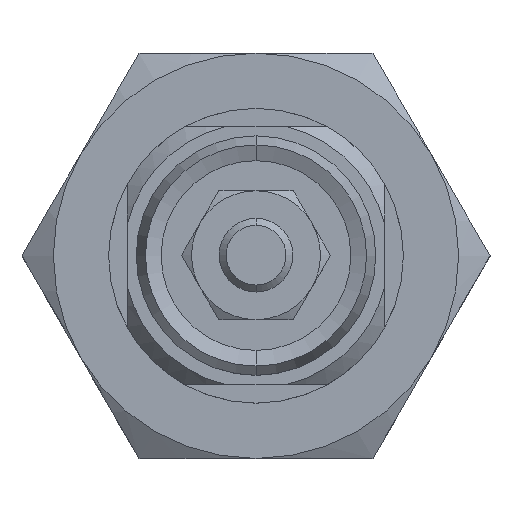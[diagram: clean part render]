
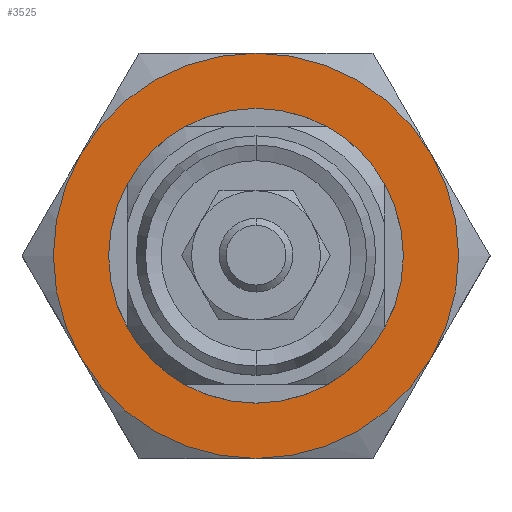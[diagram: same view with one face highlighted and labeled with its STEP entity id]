
A CAD part, top view. The second image highlights one B-rep face of the part: STEP entity #3525.
In plain terms, the highlighted planar face has unit normal (0, 0, 1).
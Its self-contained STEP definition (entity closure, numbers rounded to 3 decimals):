
#2672=CARTESIAN_POINT('',(0.,0.,6.));
#2673=DIRECTION('',(0.,0.,-1.));
#2674=DIRECTION('',(0.,1.,0.));
#2675=AXIS2_PLACEMENT_3D('',#2672,#2673,#2674);
#2680=CARTESIAN_POINT('',(0.,0.,6.));
#2681=DIRECTION('',(0.,0.,-1.));
#2682=DIRECTION('',(0.,-1.,0.));
#2683=AXIS2_PLACEMENT_3D('',#2680,#2681,#2682);
#2688=CARTESIAN_POINT('',(0.,0.,6.));
#2689=DIRECTION('',(0.,0.,-1.));
#2690=DIRECTION('',(0.,1.,0.));
#2691=AXIS2_PLACEMENT_3D('',#2688,#2689,#2690);
#2696=CARTESIAN_POINT('',(0.,0.,6.));
#2697=DIRECTION('',(0.,0.,-1.));
#2698=DIRECTION('',(0.866,0.5,0.));
#2699=AXIS2_PLACEMENT_3D('',#2696,#2697,#2698);
#2704=CARTESIAN_POINT('',(0.,0.,6.));
#2705=DIRECTION('',(0.,0.,-1.));
#2706=DIRECTION('',(0.866,-0.5,0.));
#2707=AXIS2_PLACEMENT_3D('',#2704,#2705,#2706);
#2712=CARTESIAN_POINT('',(0.,0.,6.));
#2713=DIRECTION('',(0.,0.,-1.));
#2714=DIRECTION('',(0.,-1.,0.));
#2715=AXIS2_PLACEMENT_3D('',#2712,#2713,#2714);
#2720=CARTESIAN_POINT('',(0.,0.,6.));
#2721=DIRECTION('',(0.,0.,-1.));
#2722=DIRECTION('',(-0.866,-0.5,0.));
#2723=AXIS2_PLACEMENT_3D('',#2720,#2721,#2722);
#2728=CARTESIAN_POINT('',(0.,0.,6.));
#2729=DIRECTION('',(0.,0.,-1.));
#2730=DIRECTION('',(-0.866,0.5,0.));
#2731=AXIS2_PLACEMENT_3D('',#2728,#2729,#2730);
#3376=CARTESIAN_POINT('',(0.,8.,6.));
#3377=CARTESIAN_POINT('',(0.,-8.,6.));
#3378=VERTEX_POINT('',#3376);
#3379=VERTEX_POINT('',#3377);
#3380=CARTESIAN_POINT('',(0.,11.,6.));
#3381=CARTESIAN_POINT('',(9.526,5.5,6.));
#3382=VERTEX_POINT('',#3380);
#3383=VERTEX_POINT('',#3381);
#3384=CARTESIAN_POINT('',(9.526,-5.5,6.));
#3385=VERTEX_POINT('',#3384);
#3386=CARTESIAN_POINT('',(0.,-11.,6.));
#3387=VERTEX_POINT('',#3386);
#3388=CARTESIAN_POINT('',(-9.526,-5.5,6.));
#3389=VERTEX_POINT('',#3388);
#3390=CARTESIAN_POINT('',(-9.526,5.5,6.));
#3391=VERTEX_POINT('',#3390);
#3501=CARTESIAN_POINT('',(0.,0.,6.));
#3502=DIRECTION('',(0.,0.,1.));
#3503=DIRECTION('',(1.,0.,0.));
#3504=AXIS2_PLACEMENT_3D('',#3501,#3502,#3503);
#3505=PLANE('',#3504);
#3507=ORIENTED_EDGE('',*,*,#3506,.T.);
#3509=ORIENTED_EDGE('',*,*,#3508,.T.);
#3511=ORIENTED_EDGE('',*,*,#3510,.T.);
#3513=ORIENTED_EDGE('',*,*,#3512,.T.);
#3515=ORIENTED_EDGE('',*,*,#3514,.T.);
#3517=ORIENTED_EDGE('',*,*,#3516,.T.);
#3518=EDGE_LOOP('',(#3507,#3509,#3511,#3513,#3515,#3517));
#3519=FACE_OUTER_BOUND('',#3518,.F.);
#3520=ORIENTED_EDGE('',*,*,#3491,.F.);
#3522=ORIENTED_EDGE('',*,*,#3521,.F.);
#3523=EDGE_LOOP('',(#3520,#3522));
#3524=FACE_BOUND('',#3523,.F.);
#3525=ADVANCED_FACE('',(#3519,#3524),#3505,.T.);
#2676=CIRCLE('',#2675,8.);
#2684=CIRCLE('',#2683,8.);
#2692=CIRCLE('',#2691,11.);
#2700=CIRCLE('',#2699,11.);
#2708=CIRCLE('',#2707,11.);
#2716=CIRCLE('',#2715,11.);
#2724=CIRCLE('',#2723,11.);
#2732=CIRCLE('',#2731,11.);
#3491=EDGE_CURVE('',#3378,#3379,#2676,.T.);
#3506=EDGE_CURVE('',#3382,#3383,#2692,.T.);
#3508=EDGE_CURVE('',#3383,#3385,#2700,.T.);
#3510=EDGE_CURVE('',#3385,#3387,#2708,.T.);
#3512=EDGE_CURVE('',#3387,#3389,#2716,.T.);
#3514=EDGE_CURVE('',#3389,#3391,#2724,.T.);
#3516=EDGE_CURVE('',#3391,#3382,#2732,.T.);
#3521=EDGE_CURVE('',#3379,#3378,#2684,.T.);
